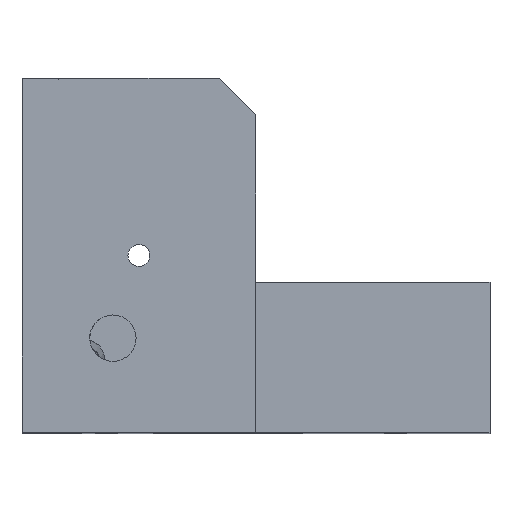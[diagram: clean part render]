
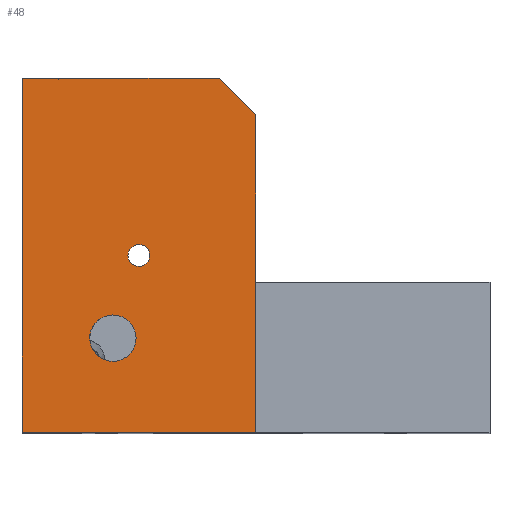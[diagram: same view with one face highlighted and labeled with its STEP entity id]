
A CAD part, top view. The second image highlights one B-rep face of the part: STEP entity #48.
In plain terms, the highlighted planar face has unit normal (0, 0, 1).
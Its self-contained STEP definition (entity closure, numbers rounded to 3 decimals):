
#24=FACE_BOUND('',#154,.T.);
#25=FACE_BOUND('',#155,.T.);
#48=ADVANCED_FACE('',(#96,#24,#25),#855,.T.);
#96=FACE_OUTER_BOUND('',#153,.T.);
#153=EDGE_LOOP('',(#271,#272,#273,#274,#275,#276));
#154=EDGE_LOOP('',(#277,#278));
#155=EDGE_LOOP('',(#279,#280));
#271=ORIENTED_EDGE('',*,*,#514,.T.);
#272=ORIENTED_EDGE('',*,*,#511,.F.);
#273=ORIENTED_EDGE('',*,*,#469,.F.);
#274=ORIENTED_EDGE('',*,*,#489,.T.);
#275=ORIENTED_EDGE('',*,*,#467,.T.);
#276=ORIENTED_EDGE('',*,*,#517,.T.);
#277=ORIENTED_EDGE('',*,*,#531,.T.);
#278=ORIENTED_EDGE('',*,*,#580,.T.);
#279=ORIENTED_EDGE('',*,*,#554,.T.);
#280=ORIENTED_EDGE('',*,*,#592,.T.);
#467=EDGE_CURVE('',#732,#760,#659,.T.);
#469=EDGE_CURVE('',#734,#733,#661,.T.);
#489=EDGE_CURVE('',#734,#732,#675,.T.);
#511=EDGE_CURVE('',#733,#758,#694,.T.);
#514=EDGE_CURVE('',#762,#758,#697,.T.);
#517=EDGE_CURVE('',#760,#762,#700,.T.);
#531=EDGE_CURVE('',#772,#805,#615,.T.);
#554=EDGE_CURVE('',#787,#813,#621,.T.);
#580=EDGE_CURVE('',#805,#772,#643,.T.);
#592=EDGE_CURVE('',#813,#787,#651,.T.);
#615=(
BOUNDED_CURVE()
B_SPLINE_CURVE(2,(#3499,#3500,#3501,#3502,#3503),.UNSPECIFIED.,.F.,.F.)
B_SPLINE_CURVE_WITH_KNOTS((3,2,3),(0.,2.356,4.712),
 .UNSPECIFIED.)
CURVE()
GEOMETRIC_REPRESENTATION_ITEM()
RATIONAL_B_SPLINE_CURVE((1.,0.707,1.,0.707,1.))
REPRESENTATION_ITEM('')
);
#621=(
BOUNDED_CURVE()
B_SPLINE_CURVE(2,(#3650,#3651,#3652,#3653,#3654),.UNSPECIFIED.,.F.,.F.)
B_SPLINE_CURVE_WITH_KNOTS((3,2,3),(0.,4.982,9.963),
 .UNSPECIFIED.)
CURVE()
GEOMETRIC_REPRESENTATION_ITEM()
RATIONAL_B_SPLINE_CURVE((1.,0.707,1.,0.707,1.))
REPRESENTATION_ITEM('')
);
#643=(
BOUNDED_CURVE()
B_SPLINE_CURVE(2,(#3763,#3764,#3765,#3766,#3767),.UNSPECIFIED.,.F.,.F.)
B_SPLINE_CURVE_WITH_KNOTS((3,2,3),(4.712,7.069,9.425),
 .UNSPECIFIED.)
CURVE()
GEOMETRIC_REPRESENTATION_ITEM()
RATIONAL_B_SPLINE_CURVE((1.,0.707,1.,0.707,1.))
REPRESENTATION_ITEM('')
);
#651=(
BOUNDED_CURVE()
B_SPLINE_CURVE(2,(#3875,#3876,#3877,#3878,#3879),.UNSPECIFIED.,.F.,.F.)
B_SPLINE_CURVE_WITH_KNOTS((3,2,3),(9.963,14.945,19.926),
 .UNSPECIFIED.)
CURVE()
GEOMETRIC_REPRESENTATION_ITEM()
RATIONAL_B_SPLINE_CURVE((1.,0.707,1.,0.707,1.))
REPRESENTATION_ITEM('')
);
#659=B_SPLINE_CURVE_WITH_KNOTS('',1,(#3317,#3318),.UNSPECIFIED.,.F.,.F.,
(2,2),(-160.738,-117.357),.UNSPECIFIED.);
#661=B_SPLINE_CURVE_WITH_KNOTS('',1,(#3321,#3322),.UNSPECIFIED.,.F.,.F.,
(2,2),(31.988,80.369),.UNSPECIFIED.);
#675=B_SPLINE_CURVE_WITH_KNOTS('',1,(#3376,#3377,#3378),.UNSPECIFIED.,.F.,
 .F.,(2,1,2),(-31.988,-26.988,0.),.UNSPECIFIED.);
#694=B_SPLINE_CURVE_WITH_KNOTS('',1,(#3432,#3433),.UNSPECIFIED.,.F.,.F.,
(2,2),(80.369,85.369),.UNSPECIFIED.);
#697=B_SPLINE_CURVE_WITH_KNOTS('',1,(#3441,#3442),.UNSPECIFIED.,.F.,.F.,
(2,2),(-107.357,-85.369),.UNSPECIFIED.);
#700=B_SPLINE_CURVE_WITH_KNOTS('',1,(#3447,#3448),.UNSPECIFIED.,.F.,.F.,
(2,2),(0.,7.071),.UNSPECIFIED.);
#732=VERTEX_POINT('',#3223);
#733=VERTEX_POINT('',#3224);
#734=VERTEX_POINT('',#3225);
#758=VERTEX_POINT('',#3249);
#760=VERTEX_POINT('',#3251);
#762=VERTEX_POINT('',#3253);
#772=VERTEX_POINT('',#3263);
#787=VERTEX_POINT('',#3278);
#805=VERTEX_POINT('',#3296);
#813=VERTEX_POINT('',#3304);
#855=PLANE('',#901);
#901=AXIS2_PLACEMENT_3D('',#2545,#930,$);
#930=DIRECTION('',(0.,0.,1.));
#2545=CARTESIAN_POINT('',(122.,-135.,479.787));
#3223=CARTESIAN_POINT('',(153.988,-135.,479.787));
#3224=CARTESIAN_POINT('',(122.,-86.619,479.787));
#3225=CARTESIAN_POINT('',(122.,-135.,479.787));
#3249=CARTESIAN_POINT('',(127.,-86.619,479.787));
#3251=CARTESIAN_POINT('',(153.988,-91.619,479.787));
#3253=CARTESIAN_POINT('',(148.988,-86.619,479.787));
#3263=CARTESIAN_POINT('',(136.495,-110.833,479.787));
#3278=CARTESIAN_POINT('',(131.478,-123.294,479.787));
#3296=CARTESIAN_POINT('',(139.495,-110.833,479.787));
#3304=CARTESIAN_POINT('',(137.388,-120.992,479.787));
#3317=CARTESIAN_POINT('',(153.988,-135.,479.787));
#3318=CARTESIAN_POINT('',(153.988,-91.619,479.787));
#3321=CARTESIAN_POINT('',(122.,-135.,479.787));
#3322=CARTESIAN_POINT('',(122.,-86.619,479.787));
#3376=CARTESIAN_POINT('',(122.,-135.,479.787));
#3377=CARTESIAN_POINT('',(127.,-135.,479.787));
#3378=CARTESIAN_POINT('',(153.988,-135.,479.787));
#3432=CARTESIAN_POINT('',(122.,-86.619,479.787));
#3433=CARTESIAN_POINT('',(127.,-86.619,479.787));
#3441=CARTESIAN_POINT('',(148.988,-86.619,479.787));
#3442=CARTESIAN_POINT('',(127.,-86.619,479.787));
#3447=CARTESIAN_POINT('',(153.988,-91.619,479.787));
#3448=CARTESIAN_POINT('',(148.988,-86.619,479.787));
#3499=CARTESIAN_POINT('',(136.495,-110.833,479.787));
#3500=CARTESIAN_POINT('',(136.495,-109.333,479.787));
#3501=CARTESIAN_POINT('',(137.995,-109.333,479.787));
#3502=CARTESIAN_POINT('',(139.495,-109.333,479.787));
#3503=CARTESIAN_POINT('',(139.495,-110.833,479.787));
#3650=CARTESIAN_POINT('',(131.478,-123.294,479.787));
#3651=CARTESIAN_POINT('',(130.327,-120.339,479.787));
#3652=CARTESIAN_POINT('',(133.282,-119.188,479.787));
#3653=CARTESIAN_POINT('',(136.237,-118.037,479.787));
#3654=CARTESIAN_POINT('',(137.388,-120.992,479.787));
#3763=CARTESIAN_POINT('',(139.495,-110.833,479.787));
#3764=CARTESIAN_POINT('',(139.495,-112.333,479.787));
#3765=CARTESIAN_POINT('',(137.995,-112.333,479.787));
#3766=CARTESIAN_POINT('',(136.495,-112.333,479.787));
#3767=CARTESIAN_POINT('',(136.495,-110.833,479.787));
#3875=CARTESIAN_POINT('',(137.388,-120.992,479.787));
#3876=CARTESIAN_POINT('',(138.539,-123.947,479.787));
#3877=CARTESIAN_POINT('',(135.584,-125.098,479.787));
#3878=CARTESIAN_POINT('',(132.629,-126.249,479.787));
#3879=CARTESIAN_POINT('',(131.478,-123.294,479.787));
